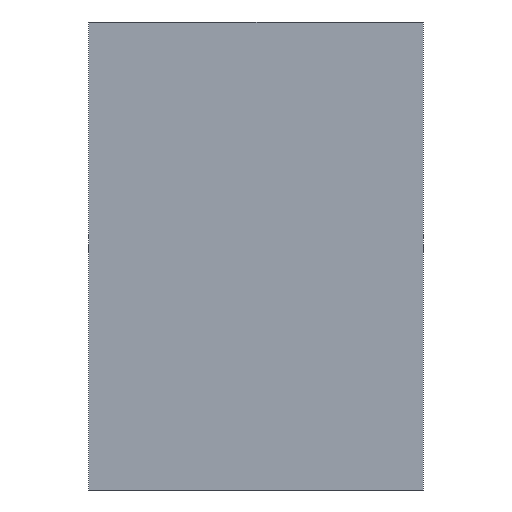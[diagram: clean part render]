
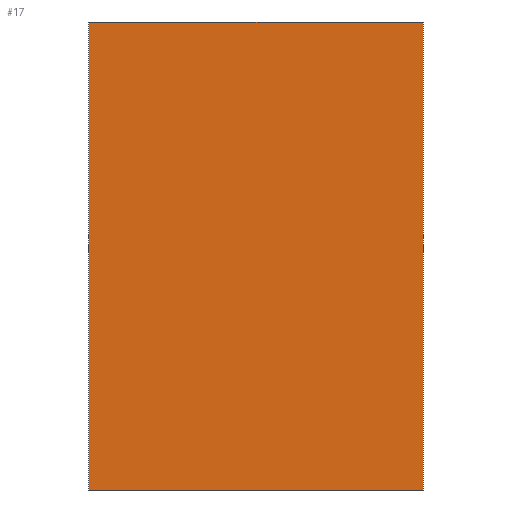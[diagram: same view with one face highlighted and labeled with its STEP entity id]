
A CAD part, left-side view. The second image highlights one B-rep face of the part: STEP entity #17.
In plain terms, the highlighted planar face has unit normal (-1, 0, 0).
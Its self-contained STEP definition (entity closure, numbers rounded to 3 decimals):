
#17 = ADVANCED_FACE('',(#18),#52,.F.);
#18 = FACE_BOUND('',#19,.F.);
#19 = EDGE_LOOP('',(#20,#30,#38,#46));
#20 = ORIENTED_EDGE('',*,*,#21,.F.);
#21 = EDGE_CURVE('',#22,#24,#26,.T.);
#22 = VERTEX_POINT('',#23);
#23 = CARTESIAN_POINT('',(-47.1,-51.,216.1));
#24 = VERTEX_POINT('',#25);
#25 = CARTESIAN_POINT('',(-47.1,-51.,225.9));
#26 = LINE('',#27,#28);
#27 = CARTESIAN_POINT('',(-47.1,-51.,216.1));
#28 = VECTOR('',#29,1.);
#29 = DIRECTION('',(0.,0.,1.));
#30 = ORIENTED_EDGE('',*,*,#31,.T.);
#31 = EDGE_CURVE('',#22,#32,#34,.T.);
#32 = VERTEX_POINT('',#33);
#33 = CARTESIAN_POINT('',(-47.1,-44.,216.1));
#34 = LINE('',#35,#36);
#35 = CARTESIAN_POINT('',(-47.1,-51.,216.1));
#36 = VECTOR('',#37,1.);
#37 = DIRECTION('',(0.,1.,0.));
#38 = ORIENTED_EDGE('',*,*,#39,.T.);
#39 = EDGE_CURVE('',#32,#40,#42,.T.);
#40 = VERTEX_POINT('',#41);
#41 = CARTESIAN_POINT('',(-47.1,-44.,225.9));
#42 = LINE('',#43,#44);
#43 = CARTESIAN_POINT('',(-47.1,-44.,216.1));
#44 = VECTOR('',#45,1.);
#45 = DIRECTION('',(0.,0.,1.));
#46 = ORIENTED_EDGE('',*,*,#47,.F.);
#47 = EDGE_CURVE('',#24,#40,#48,.T.);
#48 = LINE('',#49,#50);
#49 = CARTESIAN_POINT('',(-47.1,-51.,225.9));
#50 = VECTOR('',#51,1.);
#51 = DIRECTION('',(0.,1.,0.));
#52 = PLANE('',#53);
#53 = AXIS2_PLACEMENT_3D('',#54,#55,#56);
#54 = CARTESIAN_POINT('',(-47.1,-51.,216.1));
#55 = DIRECTION('',(1.,0.,0.));
#56 = DIRECTION('',(0.,0.,1.));
